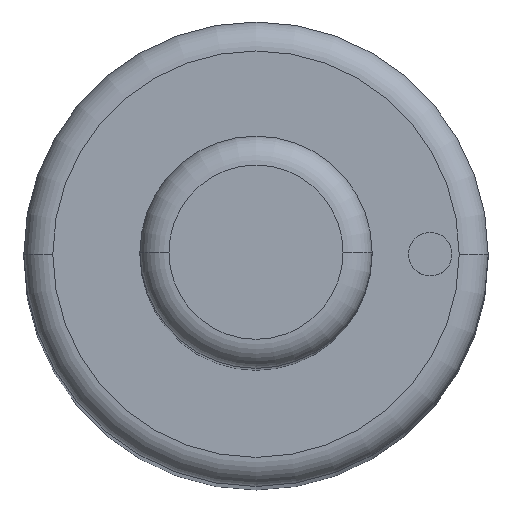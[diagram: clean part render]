
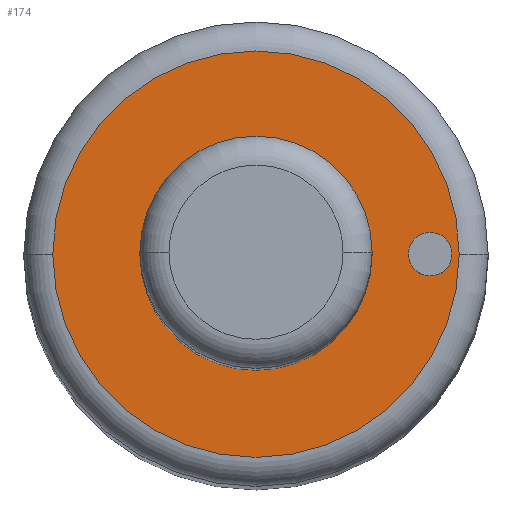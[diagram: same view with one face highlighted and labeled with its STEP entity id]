
A CAD part, top view. The second image highlights one B-rep face of the part: STEP entity #174.
In plain terms, the highlighted planar face has unit normal (0, 0, 1).
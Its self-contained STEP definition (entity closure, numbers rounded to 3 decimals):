
#99=FACE_BOUND('',#225,.T.);
#100=FACE_BOUND('',#226,.T.);
#101=FACE_BOUND('',#227,.T.);
#174=ADVANCED_FACE('',(#99,#100,#101),#180,.T.);
#180=PLANE('',#475);
#225=EDGE_LOOP('',(#307,#308));
#226=EDGE_LOOP('',(#309,#310));
#227=EDGE_LOOP('',(#311,#312));
#307=ORIENTED_EDGE('',*,*,#367,.F.);
#308=ORIENTED_EDGE('',*,*,#368,.F.);
#309=ORIENTED_EDGE('',*,*,#390,.F.);
#310=ORIENTED_EDGE('',*,*,#391,.F.);
#311=ORIENTED_EDGE('',*,*,#363,.T.);
#312=ORIENTED_EDGE('',*,*,#361,.T.);
#329=VERTEX_POINT('',#630);
#330=VERTEX_POINT('',#632);
#331=VERTEX_POINT('',#638);
#334=VERTEX_POINT('',#643);
#346=VERTEX_POINT('',#692);
#347=VERTEX_POINT('',#693);
#361=EDGE_CURVE('',#330,#329,#404,.T.);
#363=EDGE_CURVE('',#329,#330,#405,.T.);
#367=EDGE_CURVE('',#334,#331,#409,.T.);
#368=EDGE_CURVE('',#331,#334,#410,.T.);
#390=EDGE_CURVE('',#346,#347,#422,.T.);
#391=EDGE_CURVE('',#347,#346,#423,.T.);
#404=CIRCLE('',#440,4.);
#405=CIRCLE('',#442,4.);
#409=CIRCLE('',#447,7.);
#410=CIRCLE('',#449,7.);
#422=CIRCLE('',#473,0.75);
#423=CIRCLE('',#474,0.75);
#440=AXIS2_PLACEMENT_3D('',#631,#512,#513);
#442=AXIS2_PLACEMENT_3D('',#635,#517,#518);
#447=AXIS2_PLACEMENT_3D('',#644,#527,#528);
#449=AXIS2_PLACEMENT_3D('',#646,#531,#532);
#473=AXIS2_PLACEMENT_3D('',#691,#589,#590);
#474=AXIS2_PLACEMENT_3D('',#694,#591,#592);
#475=AXIS2_PLACEMENT_3D('',#695,#593,#594);
#512=DIRECTION('',(0.,0.,-1.));
#513=DIRECTION('',(0.,1.,0.));
#517=DIRECTION('',(0.,0.,-1.));
#518=DIRECTION('',(0.,-1.,0.));
#527=DIRECTION('',(0.,0.,-1.));
#528=DIRECTION('',(0.,1.,0.));
#531=DIRECTION('',(0.,0.,-1.));
#532=DIRECTION('',(0.,-1.,0.));
#589=DIRECTION('',(0.,0.,1.));
#590=DIRECTION('',(0.,1.,0.));
#591=DIRECTION('',(0.,0.,1.));
#592=DIRECTION('',(0.,-1.,0.));
#593=DIRECTION('',(0.,0.,1.));
#594=DIRECTION('',(0.,-1.,0.));
#630=CARTESIAN_POINT('',(-4.,0.,72.));
#631=CARTESIAN_POINT('',(0.,0.,72.));
#632=CARTESIAN_POINT('',(4.,0.,72.));
#635=CARTESIAN_POINT('',(0.,0.,72.));
#638=CARTESIAN_POINT('',(-7.,0.,72.));
#643=CARTESIAN_POINT('',(7.,0.,72.));
#644=CARTESIAN_POINT('',(0.,0.,72.));
#646=CARTESIAN_POINT('',(0.,0.,72.));
#691=CARTESIAN_POINT('',(6.,0.,72.));
#692=CARTESIAN_POINT('',(5.25,0.,72.));
#693=CARTESIAN_POINT('',(6.75,0.,72.));
#694=CARTESIAN_POINT('',(6.,0.,72.));
#695=CARTESIAN_POINT('',(0.,0.,72.));
